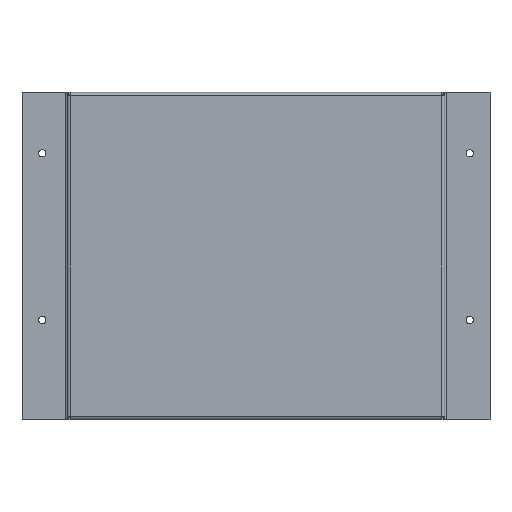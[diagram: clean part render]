
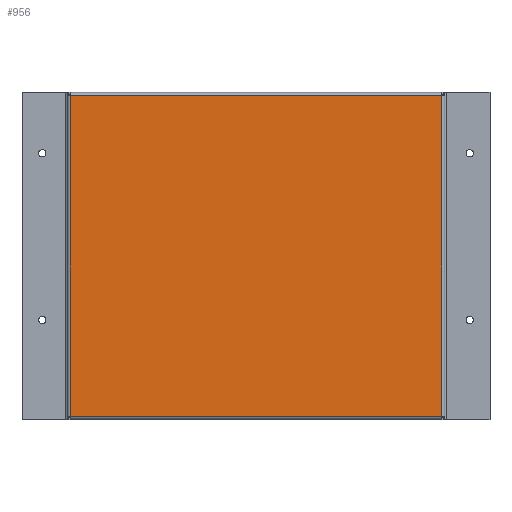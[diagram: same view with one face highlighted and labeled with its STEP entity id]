
A CAD part, top view. The second image highlights one B-rep face of the part: STEP entity #956.
In plain terms, the highlighted planar face has unit normal (0, 0, 1).
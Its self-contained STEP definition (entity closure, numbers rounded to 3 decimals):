
#300 = PLANE ( 'NONE',  #1303 ) ;
#301 = CARTESIAN_POINT ( 'NONE',  ( -141.5, -122.5, 0. ) ) ;
#302 = DIRECTION ( 'NONE',  ( 0., 0., -1. ) ) ;
#303 = DIRECTION ( 'NONE',  ( -1., 0., 0. ) ) ;
#513 = LINE ( 'NONE', #514, #1243 ) ;
#514 = CARTESIAN_POINT ( 'NONE',  ( -139.1, -122.5, 0. ) ) ;
#515 = DIRECTION ( 'NONE',  ( 0., 1., 0. ) ) ;
#516 = LINE ( 'NONE', #517, #1241 ) ;
#517 = CARTESIAN_POINT ( 'NONE',  ( 139.1, 120.1, 0. ) ) ;
#518 = DIRECTION ( 'NONE',  ( -1., 0., 0. ) ) ;
#519 = LINE ( 'NONE', #520, #1240 ) ;
#520 = CARTESIAN_POINT ( 'NONE',  ( -139.1, -120.1, 0. ) ) ;
#521 = DIRECTION ( 'NONE',  ( 1., 0., 0. ) ) ;
#522 = LINE ( 'NONE', #523, #1239 ) ;
#523 = CARTESIAN_POINT ( 'NONE',  ( 139.1, -122.5, 0. ) ) ;
#524 = DIRECTION ( 'NONE',  ( 0., 1., 0. ) ) ;
#777 = CARTESIAN_POINT ( 'NONE',  ( 139.1, 120.1, 0. ) ) ;
#784 = CARTESIAN_POINT ( 'NONE',  ( -139.1, 120.1, 0. ) ) ;
#785 = CARTESIAN_POINT ( 'NONE',  ( -139.1, -120.1, 0. ) ) ;
#786 = CARTESIAN_POINT ( 'NONE',  ( 139.1, -120.1, 0. ) ) ;
#956 = ADVANCED_FACE ( 'NONE', ( #1306 ), #300, .F. ) ;
#1027 = EDGE_CURVE ( 'NONE', #1483, #1482, #513, .T. ) ;
#1028 = EDGE_CURVE ( 'NONE', #1473, #1482, #516, .T. ) ;
#1029 = EDGE_CURVE ( 'NONE', #1483, #1484, #519, .T. ) ;
#1030 = EDGE_CURVE ( 'NONE', #1484, #1473, #522, .T. ) ;
#1239 = VECTOR ( 'NONE', #524, 1000. ) ;
#1240 = VECTOR ( 'NONE', #521, 1000. ) ;
#1241 = VECTOR ( 'NONE', #518, 1000. ) ;
#1243 = VECTOR ( 'NONE', #515, 1000. ) ;
#1303 = AXIS2_PLACEMENT_3D ( 'NONE', #301, #302, #303 ) ;
#1306 = FACE_OUTER_BOUND ( 'NONE', #1580, .T. ) ;
#1473 = VERTEX_POINT ( 'NONE', #777 ) ;
#1482 = VERTEX_POINT ( 'NONE', #784 ) ;
#1483 = VERTEX_POINT ( 'NONE', #785 ) ;
#1484 = VERTEX_POINT ( 'NONE', #786 ) ;
#1580 = EDGE_LOOP ( 'NONE', ( #1755, #1757, #1756, #1758 ) ) ;
#1755 = ORIENTED_EDGE ( 'NONE', *, *, #1028, .T. ) ;
#1756 = ORIENTED_EDGE ( 'NONE', *, *, #1029, .T. ) ;
#1757 = ORIENTED_EDGE ( 'NONE', *, *, #1027, .F. ) ;
#1758 = ORIENTED_EDGE ( 'NONE', *, *, #1030, .T. ) ;
